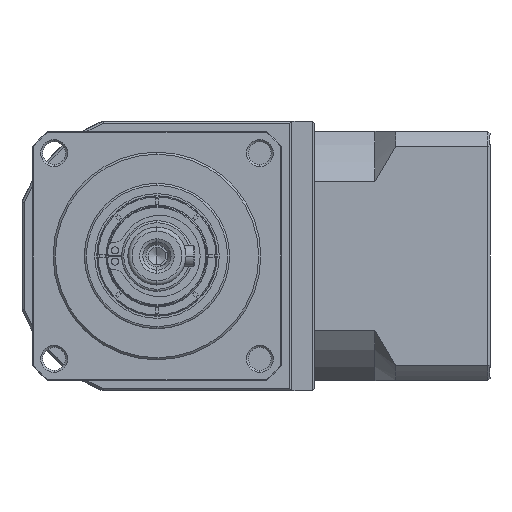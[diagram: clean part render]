
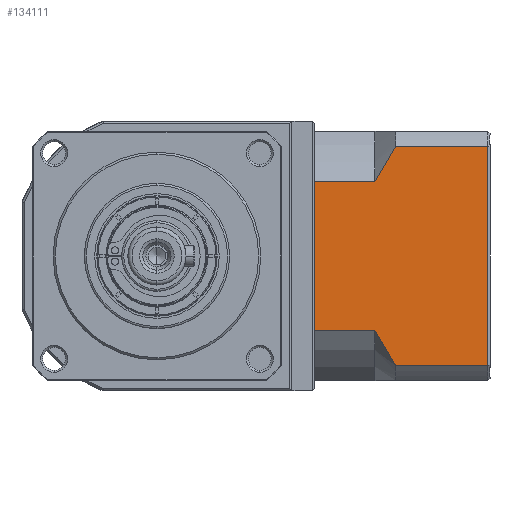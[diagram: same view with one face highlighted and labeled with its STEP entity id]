
A CAD part, left-side view. The second image highlights one B-rep face of the part: STEP entity #134111.
In plain terms, the highlighted planar face has unit normal (-1, 0, 0).
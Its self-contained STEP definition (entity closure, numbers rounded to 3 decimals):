
#221 = EDGE_CURVE ( 'NONE', #103690, #128751, #92822, .T. ) ;
#3434 = VECTOR ( 'NONE', #107777, 1000. ) ;
#3717 = CARTESIAN_POINT ( 'NONE',  ( -17.619, -83.863, -97.155 ) ) ;
#4656 = PLANE ( 'NONE',  #70098 ) ;
#4719 = B_SPLINE_CURVE_WITH_KNOTS ( 'NONE', 3,
 ( #118843, #21374, #9073, #45840, #131063, #58023 ),
 .UNSPECIFIED., .F., .F.,
 ( 4, 2, 4 ),
 ( 0.1, 0.104, 0.109 ),
 .UNSPECIFIED. ) ;
#6054 = ORIENTED_EDGE ( 'NONE', *, *, #31618, .T. ) ;
#9073 = CARTESIAN_POINT ( 'NONE',  ( -17.619, -80.414, -144.522 ) ) ;
#10998 = CARTESIAN_POINT ( 'NONE',  ( -17.619, -82.964, -98.515 ) ) ;
#13425 = CARTESIAN_POINT ( 'NONE',  ( -17.619, -64.363, -141.64 ) ) ;
#17779 = CARTESIAN_POINT ( 'NONE',  ( -17.619, -78.863, -150.07 ) ) ;
#19559 = DIRECTION ( 'NONE',  ( 0., 1., 0. ) ) ;
#21374 = CARTESIAN_POINT ( 'NONE',  ( -17.619, -79.614, -143.097 ) ) ;
#26372 = ORIENTED_EDGE ( 'NONE', *, *, #145522, .T. ) ;
#26834 = LINE ( 'NONE', #87953, #91520 ) ;
#29757 = ORIENTED_EDGE ( 'NONE', *, *, #73231, .F. ) ;
#31618 = EDGE_CURVE ( 'NONE', #100210, #37273, #4719, .T. ) ;
#33425 = CARTESIAN_POINT ( 'NONE',  ( -17.619, -83.863, -150.07 ) ) ;
#35519 = CARTESIAN_POINT ( 'NONE',  ( -17.619, -82.091, -99.894 ) ) ;
#37273 = VERTEX_POINT ( 'NONE', #33425 ) ;
#41715 = DIRECTION ( 'NONE',  ( 0., 1., 0. ) ) ;
#41996 = DIRECTION ( 'NONE',  ( 1., 0., 0. ) ) ;
#43282 = FACE_OUTER_BOUND ( 'NONE', #123577, .T. ) ;
#45840 = CARTESIAN_POINT ( 'NONE',  ( -17.619, -82.088, -147.327 ) ) ;
#46866 = VERTEX_POINT ( 'NONE', #113067 ) ;
#47752 = CARTESIAN_POINT ( 'NONE',  ( -17.619, -79.611, -104.133 ) ) ;
#50690 = LINE ( 'NONE', #128713, #79209 ) ;
#54281 = EDGE_CURVE ( 'NONE', #81089, #46866, #26834, .T. ) ;
#58023 = CARTESIAN_POINT ( 'NONE',  ( -17.619, -83.863, -150.07 ) ) ;
#58943 = ORIENTED_EDGE ( 'NONE', *, *, #101753, .F. ) ;
#60696 = CARTESIAN_POINT ( 'NONE',  ( -17.619, -64.363, -105.585 ) ) ;
#68440 = DIRECTION ( 'NONE',  ( 0., -1., 0. ) ) ;
#70098 = AXIS2_PLACEMENT_3D ( 'NONE', #114957, #41996, #127172 ) ;
#73231 = EDGE_CURVE ( 'NONE', #153489, #128751, #96632, .T. ) ;
#73241 = CARTESIAN_POINT ( 'NONE',  ( -17.619, -106.063, -150.07 ) ) ;
#77045 = B_SPLINE_CURVE_WITH_KNOTS ( 'NONE', 3,
 ( #96272, #10998, #35519, #120753, #47752, #132975 ),
 .UNSPECIFIED., .F., .F.,
 ( 4, 2, 4 ),
 ( 0.052, 0.057, 0.062 ),
 .UNSPECIFIED. ) ;
#78979 = ORIENTED_EDGE ( 'NONE', *, *, #119227, .T. ) ;
#79209 = VECTOR ( 'NONE', #19559, 1000. ) ;
#81089 = VERTEX_POINT ( 'NONE', #60696 ) ;
#81926 = VECTOR ( 'NONE', #41715, 1000. ) ;
#83732 = CARTESIAN_POINT ( 'NONE',  ( -17.619, -64.363, -153.613 ) ) ;
#87953 = CARTESIAN_POINT ( 'NONE',  ( -17.619, -78.863, -105.585 ) ) ;
#91520 = VECTOR ( 'NONE', #112028, 1000. ) ;
#92822 = LINE ( 'NONE', #146401, #153771 ) ;
#96272 = CARTESIAN_POINT ( 'NONE',  ( -17.619, -83.863, -97.155 ) ) ;
#96632 = LINE ( 'NONE', #140908, #157561 ) ;
#96940 = LINE ( 'NONE', #83732, #3434 ) ;
#100210 = VERTEX_POINT ( 'NONE', #104289 ) ;
#101753 = EDGE_CURVE ( 'NONE', #103690, #37273, #118175, .T. ) ;
#103690 = VERTEX_POINT ( 'NONE', #73241 ) ;
#104289 = CARTESIAN_POINT ( 'NONE',  ( -17.619, -78.863, -141.64 ) ) ;
#106509 = ORIENTED_EDGE ( 'NONE', *, *, #221, .T. ) ;
#107777 = DIRECTION ( 'NONE',  ( 0., 0., -1. ) ) ;
#112028 = DIRECTION ( 'NONE',  ( 0., -1., 0. ) ) ;
#113067 = CARTESIAN_POINT ( 'NONE',  ( -17.619, -78.863, -105.585 ) ) ;
#114957 = CARTESIAN_POINT ( 'NONE',  ( -17.619, -106.563, -153.613 ) ) ;
#116665 = ORIENTED_EDGE ( 'NONE', *, *, #141287, .F. ) ;
#118175 = LINE ( 'NONE', #17779, #81926 ) ;
#118843 = CARTESIAN_POINT ( 'NONE',  ( -17.619, -78.863, -141.64 ) ) ;
#119227 = EDGE_CURVE ( 'NONE', #81089, #119353, #96940, .T. ) ;
#119353 = VERTEX_POINT ( 'NONE', #13425 ) ;
#120753 = CARTESIAN_POINT ( 'NONE',  ( -17.619, -80.415, -102.701 ) ) ;
#123577 = EDGE_LOOP ( 'NONE', ( #58943, #106509, #29757, #26372, #157699, #78979, #116665, #6054 ) ) ;
#127172 = DIRECTION ( 'NONE',  ( 0., 1., 0. ) ) ;
#127335 = CARTESIAN_POINT ( 'NONE',  ( -17.619, -106.063, -97.155 ) ) ;
#128713 = CARTESIAN_POINT ( 'NONE',  ( -17.619, -78.863, -141.64 ) ) ;
#128751 = VERTEX_POINT ( 'NONE', #127335 ) ;
#131063 = CARTESIAN_POINT ( 'NONE',  ( -17.619, -82.962, -148.707 ) ) ;
#132975 = CARTESIAN_POINT ( 'NONE',  ( -17.619, -78.863, -105.585 ) ) ;
#134111 = ADVANCED_FACE ( 'NONE', ( #43282 ), #4656, .F. ) ;
#140908 = CARTESIAN_POINT ( 'NONE',  ( -17.619, -78.863, -97.155 ) ) ;
#141287 = EDGE_CURVE ( 'NONE', #100210, #119353, #50690, .T. ) ;
#144823 = DIRECTION ( 'NONE',  ( 0., 0., 1. ) ) ;
#145522 = EDGE_CURVE ( 'NONE', #153489, #46866, #77045, .T. ) ;
#146401 = CARTESIAN_POINT ( 'NONE',  ( -17.619, -106.063, -153.613 ) ) ;
#153489 = VERTEX_POINT ( 'NONE', #3717 ) ;
#153771 = VECTOR ( 'NONE', #144823, 1000. ) ;
#157561 = VECTOR ( 'NONE', #68440, 1000. ) ;
#157699 = ORIENTED_EDGE ( 'NONE', *, *, #54281, .F. ) ;
